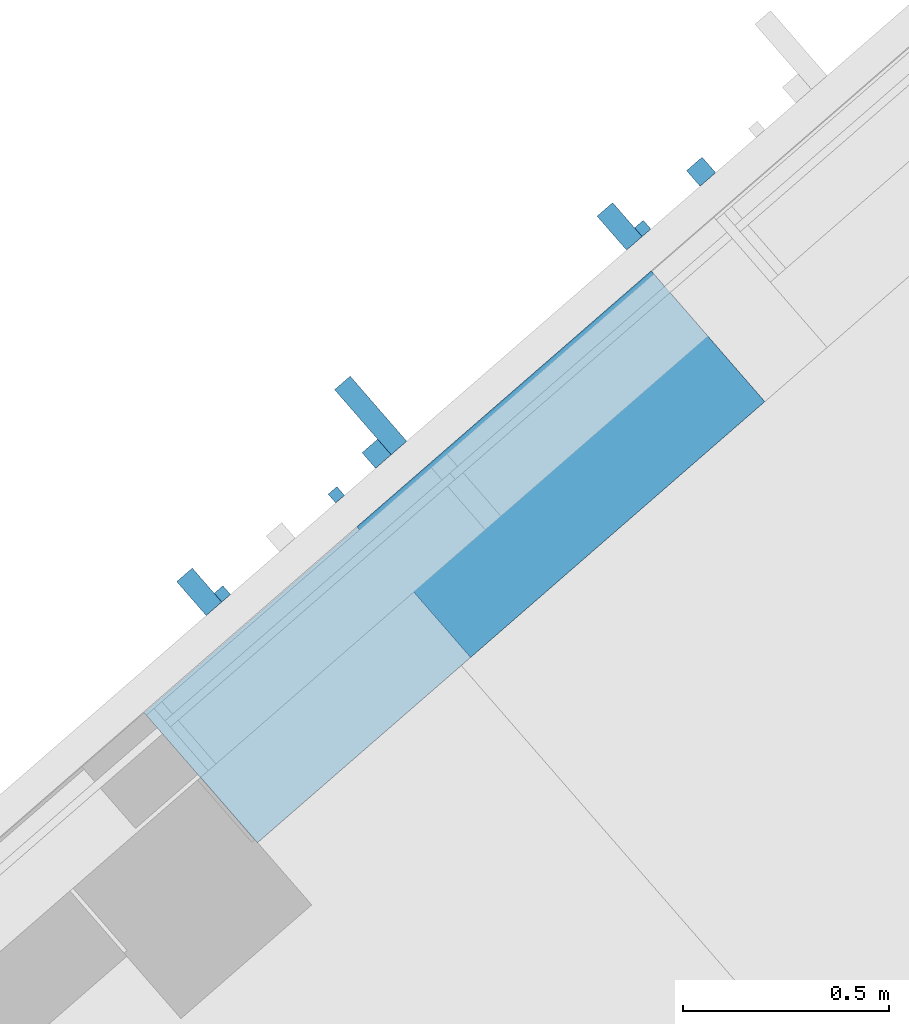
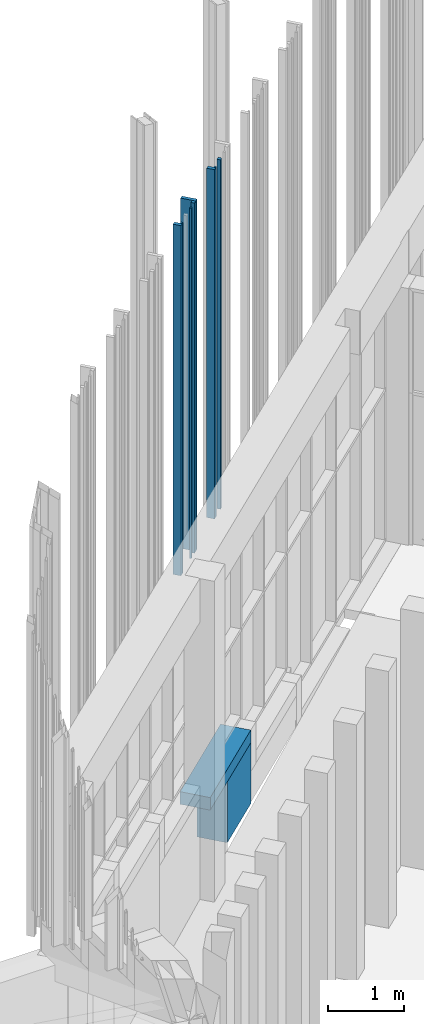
# One storey, part 139 of 390: 10 walls.
"""IFC2X3 building model written with IfcOpenShell, lengths in millimetres."""

from ifc_helpers import new_model, entity, si_unit, converted_unit, derived_unit, money_unit, direction, frame, origin_with_axes, place, context, subcontext, project, spatial, faceted_brep, material, material_list, type_object, element, save


model = new_model("IFC2X3")

# Units and contexts
model_context = context("Model", 3, precision=1e-05, world=origin_with_axes(), true_north=direction((0.0, 1.0)))
body_context = subcontext(model_context, "Body", "Model", "MODEL_VIEW")
ifc_project = project(units=[si_unit("LENGTHUNIT", "METRE", prefix="MILLI"), si_unit("AREAUNIT", "SQUARE_METRE"), si_unit("VOLUMEUNIT", "CUBIC_METRE"), converted_unit("PLANEANGLEUNIT", "DEGREE", entity("IfcPlaneAngleMeasure", 0.0174532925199), si_unit("PLANEANGLEUNIT", "RADIAN"), dimensions=[0, 0, 0, 0, 0, 0, 0]), si_unit("SOLIDANGLEUNIT", "STERADIAN"), money_unit("EUR"), converted_unit("TIMEUNIT", "Year", entity("IfcTimeMeasure", 31556926.0), si_unit("TIMEUNIT", "SECOND"), dimensions=[0, 0, 1, 0, 0, 0, 0]), si_unit("MASSUNIT", "GRAM", prefix="KILO"), si_unit("THERMODYNAMICTEMPERATUREUNIT", "DEGREE_CELSIUS"), si_unit("LUMINOUSINTENSITYUNIT", "LUMEN"), si_unit("ENERGYUNIT", "JOULE", prefix="MEGA"), derived_unit("THERMALCONDUCTANCEUNIT", [(si_unit("POWERUNIT", "WATT"), 1), (si_unit("LENGTHUNIT", "METRE"), -1), (si_unit("THERMODYNAMICTEMPERATUREUNIT", "KELVIN"), -1)]), derived_unit("SPECIFICHEATCAPACITYUNIT", [(si_unit("ENERGYUNIT", "JOULE"), 1), (si_unit("MASSUNIT", "GRAM", prefix="KILO"), -1), (si_unit("THERMODYNAMICTEMPERATUREUNIT", "KELVIN"), -1)]), derived_unit("MASSDENSITYUNIT", [(si_unit("MASSUNIT", "GRAM", prefix="KILO"), 1), (si_unit("VOLUMEUNIT", "CUBIC_METRE"), -1)])], contexts=[model_context])

# Site, building, storey
site_placement = place(None, origin_with_axes())
site = spatial("IfcSite", under=ifc_project, at=site_placement, Name="Site", CompositionType="ELEMENT")
building_placement = place(site_placement, origin_with_axes())
building = spatial("IfcBuilding", under=site, at=building_placement, Name="Building", CompositionType="ELEMENT")
storey_placement = place(building_placement, origin_with_axes())
storey = spatial("IfcBuildingStorey", under=building, at=storey_placement, Name="1 korrus", CompositionType="ELEMENT", Elevation=0.0)

# Walls
ifc_material_1 = material(Name="Krohv - Lubjakivi")
ifc_material_2 = material(Name="Raudbetoon - Konstruktsioon")
ifc_material_3 = material(Name="Soojustus - Plastik Kõva")
ifc_material_4 = material(Name="Membraan - Veekindel")
ifc_material_list_1 = material_list([ifc_material_1, ifc_material_2, ifc_material_3, ifc_material_3, ifc_material_4, ifc_material_4])
wall_type_1 = type_object("IfcWallType", Name="VS-03", PredefinedType="NOTDEFINED")
wall_1_placement = place(storey_placement, frame((128231.108757, 80814.3611807, -150.000001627), z_axis=(0.0, 0.0, 1.0), x_axis=(-0.754709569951, -0.656059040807, 0.0)))
element("IfcWall", 1, at=wall_1_placement, inside=storey, type_object=wall_type_1, material=ifc_material_list_1, Name="VS-03", context=body_context, shape_type="Brep", body=[
    faceted_brep([(0.0, -10.0, 975.000001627), (944.999991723, -10.0, 975.000001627), (944.999991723, 0.0, 975.000001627), (0.0, 0.0, 975.000001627), (0.0, -10.0, 0.0), (944.999991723, -10.0, 0.0), (944.999991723, 0.0, 0.0), (0.0, 0.0, 0.0)], [[[0, 1, 2, 3]], [[4, 5, 1, 0]], [[2, 1, 5, 6]], [[3, 2, 6, 7]], [[4, 0, 3, 7]], [[7, 6, 5, 4]]]),
    faceted_brep([(0.0, -210.0, 975.000001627), (944.999991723, -210.0, 975.000001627), (944.999991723, -10.0, 975.000001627), (0.0, -10.0, 975.000001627), (0.0, -210.0, 0.0), (944.999991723, -210.0, 0.0), (944.999991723, -10.0, 0.0), (0.0, -10.0, 0.0)], [[[0, 1, 2, 3]], [[4, 5, 1, 0]], [[2, 1, 5, 6]], [[3, 2, 6, 7]], [[4, 0, 3, 7]], [[7, 6, 5, 4]]]),
    faceted_brep([(0.0, -360.0, 975.000001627), (944.999991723, -360.0, 975.000001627), (944.999991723, -210.0, 975.000001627), (0.0, -210.0, 975.000001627), (0.0, -360.0, 0.0), (944.999991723, -360.0, 0.0), (944.999991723, -210.0, 0.0), (0.0, -210.0, 0.0)], [[[0, 1, 2, 3]], [[4, 5, 1, 0]], [[2, 1, 5, 6]], [[3, 2, 6, 7]], [[4, 0, 3, 7]], [[7, 6, 5, 4]]]),
    faceted_brep([(0.0, -410.0, 975.000001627), (944.999991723, -410.0, 975.000001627), (944.999991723, -360.0, 975.000001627), (0.0, -360.0, 975.000001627), (0.0, -410.0, 0.0), (944.999991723, -410.0, 0.0), (944.999991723, -360.0, 0.0), (0.0, -360.0, 0.0)], [[[0, 1, 2, 3]], [[4, 5, 1, 0]], [[2, 1, 5, 6]], [[3, 2, 6, 7]], [[4, 0, 3, 7]], [[7, 6, 5, 4]]]),
    faceted_brep([(0.0, -415.0, 975.000001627), (944.999991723, -415.0, 975.000001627), (944.999991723, -410.0, 975.000001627), (0.0, -410.0, 975.000001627), (0.0, -415.0, 0.0), (944.999991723, -415.0, 0.0), (944.999991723, -410.0, 0.0), (0.0, -410.0, 0.0)], [[[0, 1, 2, 3]], [[4, 5, 1, 0]], [[2, 1, 5, 6]], [[3, 2, 6, 7]], [[4, 0, 3, 7]], [[7, 6, 5, 4]]]),
    faceted_brep([(0.0, -420.0, 975.000001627), (944.999991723, -420.0, 975.000001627), (944.999991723, -415.0, 975.000001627), (0.0, -415.0, 975.000001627), (0.0, -420.0, 0.0), (944.999991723, -420.0, 0.0), (944.999991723, -415.0, 0.0), (0.0, -415.0, 0.0)], [[[0, 1, 2, 3]], [[4, 5, 1, 0]], [[2, 1, 5, 6]], [[3, 2, 6, 7]], [[4, 0, 3, 7]], [[7, 6, 5, 4]]]),
])
ifc_material_5 = material(Name="Site specified")
wall_type_2 = type_object("IfcWallType", Name="Puitfassaadi ribistik", PredefinedType="NOTDEFINED")
wall_2_placement = place(storey_placement, frame((126916.249793, 80348.4534008, 4274.4593723), z_axis=(0.0, 0.0, 1.0), x_axis=(0.754709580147, 0.656059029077, 0.0)))
element("IfcWall", 2, at=wall_2_placement, inside=storey, type_object=wall_type_2, material=ifc_material_5, Name="Site specified", context=body_context, shape_type="Brep", body=[
    faceted_brep([(14.0, 14.0, 5590.5406277), (14.0, 14.0, 0.0), (-14.0, 14.0, 0.0), (-14.0, 14.0, 5590.5406277), (14.0, -14.0, 5590.5406277), (14.0, -14.0, 0.0), (-14.0, -14.0, 0.0), (-14.0, -14.0, 5590.5406277)], [[[0, 1, 2, 3]], [[4, 5, 1, 0]], [[2, 1, 5, 6]], [[3, 2, 6, 7]], [[4, 0, 3, 7]], [[7, 6, 5, 4]]]),
])
wall_3_placement = place(storey_placement, frame((127290.161481, 80688.0650158, 4274.4593723), z_axis=(0.0, 0.0, 1.0), x_axis=(0.754709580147, 0.656059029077, 0.0)))
element("IfcWall", 3, at=wall_3_placement, inside=storey, type_object=wall_type_2, material=ifc_material_5, Name="Site specified", context=body_context, shape_type="Brep", body=[
    faceted_brep([(25.0, 25.0, 5590.5406277), (25.0, 25.0, 0.0), (-25.0, 25.0, 0.0), (-25.0, 25.0, 5590.5406277), (25.0, -25.0, 5590.5406277), (25.0, -25.0, 0.0), (-25.0, -25.0, 0.0), (-25.0, -25.0, 5590.5406277)], [[[0, 1, 2, 3]], [[4, 5, 1, 0]], [[2, 1, 5, 6]], [[3, 2, 6, 7]], [[4, 0, 3, 7]], [[7, 6, 5, 4]]]),
])
wall_4_placement = place(storey_placement, frame((127192.473499, 80588.5710054, 4274.4593723), z_axis=(0.0, 0.0, 1.0), x_axis=(0.754709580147, 0.656059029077, 0.0)))
element("IfcWall", 4, at=wall_4_placement, inside=storey, type_object=wall_type_2, material=ifc_material_5, Name="Site specified", context=body_context, shape_type="Brep", body=[
    faceted_brep([(14.0, 14.0, 5590.5406277), (14.0, 14.0, 0.0), (-14.0, 14.0, 0.0), (-14.0, 14.0, 5590.5406277), (14.0, -14.0, 5590.5406277), (14.0, -14.0, 0.0), (-14.0, -14.0, 0.0), (-14.0, -14.0, 5590.5406277)], [[[0, 1, 2, 3]], [[4, 5, 1, 0]], [[2, 1, 5, 6]], [[3, 2, 6, 7]], [[4, 0, 3, 7]], [[7, 6, 5, 4]]]),
])
wall_5_placement = place(storey_placement, frame((126860.245728, 80353.4328366, 4274.4593723), z_axis=(0.0, 0.0, 1.0), x_axis=(0.754709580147, 0.656059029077, 0.0)))
element("IfcWall", 5, at=wall_5_placement, inside=storey, type_object=wall_type_2, material=ifc_material_5, Name="Site specified", context=body_context, shape_type="Brep", body=[
    faceted_brep([(25.0, 54.5, 5590.5406277), (25.0, 54.5, 0.0), (-25.0, 54.5, 0.0), (-25.0, 54.5, 5590.5406277), (25.0, -54.5, 5590.5406277), (25.0, -54.5, 0.0), (-25.0, -54.5, 0.0), (-25.0, -54.5, 5590.5406277)], [[[0, 1, 2, 3]], [[4, 5, 1, 0]], [[2, 1, 5, 6]], [[3, 2, 6, 7]], [[4, 0, 3, 7]], [[7, 6, 5, 4]]]),
])
wall_6_placement = place(storey_placement, frame((127275.740268, 80780.8673789, 4274.4593723), z_axis=(0.0, 0.0, 1.0), x_axis=(0.754709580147, 0.656059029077, 0.0)))
element("IfcWall", 6, at=wall_6_placement, inside=storey, type_object=wall_type_2, material=ifc_material_5, Name="Site specified", context=body_context, shape_type="Brep", body=[
    faceted_brep([(25.0, 104.5, 5590.5406277), (25.0, 104.5, 0.0), (-25.0, 104.5, 0.0), (-25.0, 104.5, 5590.5406277), (25.0, -104.5, 5590.5406277), (25.0, -104.5, 0.0), (-25.0, -104.5, 0.0), (-25.0, -104.5, 5590.5406277)], [[[0, 1, 2, 3]], [[4, 5, 1, 0]], [[2, 1, 5, 6]], [[3, 2, 6, 7]], [[4, 0, 3, 7]], [[7, 6, 5, 4]]]),
])
wall_7_placement = place(storey_placement, frame((128076.568864, 81371.6785241, 4287.60586403), z_axis=(0.0, 0.0, 1.0), x_axis=(0.754709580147, 0.656059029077, 0.0)))
element("IfcWall", 7, at=wall_7_placement, inside=storey, type_object=wall_type_2, material=ifc_material_5, Name="Site specified", context=body_context, shape_type="Brep", body=[
    faceted_brep([(25.0, 25.0, 5577.39413597), (25.0, 25.0, 0.0), (-25.0, 25.0, 0.0), (-25.0, 25.0, 5577.39413597), (25.0, -25.0, 5577.39413597), (25.0, -25.0, 0.0), (-25.0, -25.0, 0.0), (-25.0, -25.0, 5577.39413597)], [[[0, 1, 2, 3]], [[4, 5, 1, 0]], [[2, 1, 5, 6]], [[3, 2, 6, 7]], [[4, 0, 3, 7]], [[7, 6, 5, 4]]]),
])
wall_8_placement = place(storey_placement, frame((127879.103662, 81239.1125259, 4287.60586403), z_axis=(0.0, 0.0, 1.0), x_axis=(0.754709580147, 0.656059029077, 0.0)))
element("IfcWall", 8, at=wall_8_placement, inside=storey, type_object=wall_type_2, material=ifc_material_5, Name="Site specified", context=body_context, shape_type="Brep", body=[
    faceted_brep([(25.0, 54.5, 5577.39413597), (25.0, 54.5, 0.0), (-25.0, 54.5, 0.0), (-25.0, 54.5, 5577.39413597), (25.0, -54.5, 5577.39413597), (25.0, -54.5, 0.0), (-25.0, -54.5, 0.0), (-25.0, -54.5, 5577.39413597)], [[[0, 1, 2, 3]], [[4, 5, 1, 0]], [[2, 1, 5, 6]], [[3, 2, 6, 7]], [[4, 0, 3, 7]], [[7, 6, 5, 4]]]),
])
wall_9_placement = place(storey_placement, frame((127935.107726, 81234.13309, 4287.60586403), z_axis=(0.0, 0.0, 1.0), x_axis=(0.754709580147, 0.656059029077, 0.0)))
element("IfcWall", 9, at=wall_9_placement, inside=storey, type_object=wall_type_2, material=ifc_material_5, Name="Site specified", context=body_context, shape_type="Brep", body=[
    faceted_brep([(14.0, 14.0, 5577.39413597), (14.0, 14.0, 0.0), (-14.0, 14.0, 0.0), (-14.0, 14.0, 5577.39413597), (14.0, -14.0, 5577.39413597), (14.0, -14.0, 0.0), (-14.0, -14.0, 0.0), (-14.0, -14.0, 5577.39413597)], [[[0, 1, 2, 3]], [[4, 5, 1, 0]], [[2, 1, 5, 6]], [[3, 2, 6, 7]], [[4, 0, 3, 7]], [[7, 6, 5, 4]]]),
])
ifc_material_6 = material(Name="Plaat - Sein")
ifc_material_list_2 = material_list([ifc_material_6, ifc_material_3, ifc_material_3, ifc_material_2, ifc_material_1])
wall_type_3 = type_object("IfcWallType", Name="VS-05", PredefinedType="NOTDEFINED")
wall_10_placement = place(storey_placement, frame((127000.932139, 79744.9849662, 825.0), z_axis=(0.0, 0.0, 1.0), x_axis=(0.75470958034, 0.656059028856, 0.0)))
element("IfcWall", 10, at=wall_10_placement, inside=storey, type_object=wall_type_3, material=ifc_material_list_2, Name="VS-05", context=body_context, shape_type="Brep", body=[
    faceted_brep([(1630.0, 418.0, 0.0), (1630.0, 410.0, 0.0), (0.0, 410.0, 0.0), (0.0, 418.0, 0.0), (1630.0, 418.0, 200.0), (1630.0, 410.0, 200.0), (0.0, 410.0, 200.0), (0.0, 418.0, 200.0)], [[[0, 1, 2, 3]], [[0, 4, 5, 1]], [[1, 5, 6, 2]], [[3, 2, 6, 7]], [[4, 0, 3, 7]], [[5, 4, 7, 6]]]),
    faceted_brep([(1630.0, 410.0, 0.0), (1630.0, 360.0, 0.0), (0.0, 360.0, 0.0), (0.0, 410.0, 0.0), (1630.0, 410.0, 200.0), (1630.0, 360.0, 200.0), (0.0, 360.0, 200.0), (0.0, 410.0, 200.0)], [[[0, 1, 2, 3]], [[0, 4, 5, 1]], [[1, 5, 6, 2]], [[3, 2, 6, 7]], [[4, 0, 3, 7]], [[5, 4, 7, 6]]]),
    faceted_brep([(1630.0, 360.0, 0.0), (1630.0, 210.0, 0.0), (0.0, 210.0, 0.0), (0.0, 360.0, 0.0), (1630.0, 360.0, 200.0), (1630.0, 210.0, 200.0), (0.0, 210.0, 200.0), (0.0, 360.0, 200.0)], [[[0, 1, 2, 3]], [[0, 4, 5, 1]], [[1, 5, 6, 2]], [[3, 2, 6, 7]], [[4, 0, 3, 7]], [[5, 4, 7, 6]]]),
    faceted_brep([(1630.0, 210.0, 0.0), (1630.0, 10.0, 0.0), (0.0, 10.0, 0.0), (0.0, 210.0, 0.0), (1630.0, 210.0, 200.0), (1630.0, 10.0, 200.0), (0.0, 10.0, 200.0), (0.0, 210.0, 200.0)], [[[0, 1, 2, 3]], [[0, 4, 5, 1]], [[1, 5, 6, 2]], [[3, 2, 6, 7]], [[4, 0, 3, 7]], [[5, 4, 7, 6]]]),
    faceted_brep([(1630.0, 10.0, 0.0), (1630.0, 0.0, 0.0), (0.0, 0.0, 0.0), (0.0, 10.0, 0.0), (1630.0, 10.0, 200.0), (1630.0, 0.0, 200.0), (0.0, 0.0, 200.0), (0.0, 10.0, 200.0)], [[[0, 1, 2, 3]], [[0, 4, 5, 1]], [[1, 5, 6, 2]], [[3, 2, 6, 7]], [[4, 0, 3, 7]], [[5, 4, 7, 6]]]),
])

save(model, "model.ifc")
